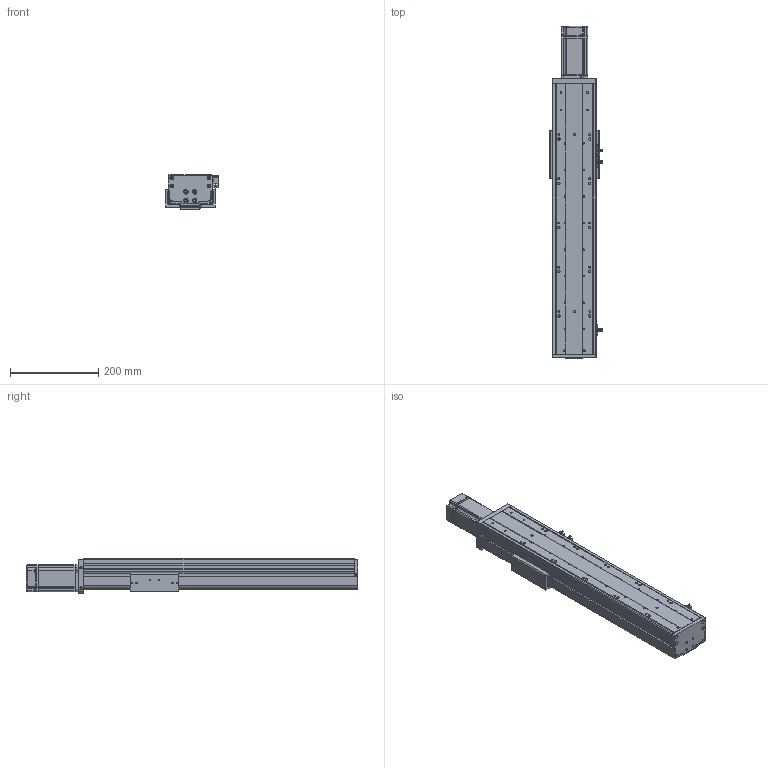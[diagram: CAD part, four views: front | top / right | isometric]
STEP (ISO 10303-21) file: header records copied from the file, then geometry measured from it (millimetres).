
FILE_DESCRIPTION (( 'STEP AP203' ), '1' );
FILE_NAME ('RY100FBS-L1610-300-MK(15双轨）.SLDASM_350.step', '2021-02-22T08:44:09', ( '盈信电脑' ), ( '东莞市道滘镇水果街19号' ), 'SwSTEP 2.0', 'SolidWorks 2012', '' );
FILE_SCHEMA (( 'CONFIG_CONTROL_DESIGN' ));
Length unit declared in the file: millimetre
Products named in the file (12): RY100FBS-L1610-300-MK(15双轨）.SLDASM_350; 覜茼ん672; 侂狟400W侜督萇儂; RY100FB-遵嫖萇覜茼え; 15; RY100FBS-后盖板(15双轨）; RY100FBS-300-上盖板(15双轨）_350; RY100FBS-前盖板(15双轨）; 滅袉蝶18-24; RY100FBS-铝滑块（16丝杆）; RY100FBS-300型材底座(15双轨）_350; 滅袉蝶18-15
Assembly tree (14 placements, depth 3):
  RY100FBS-L1610-300-MK(15双轨）.SLDASM_350
    RY100FBS-300型材底座(15双轨）_350
    滅袉蝶18-24  x2
    滅袉蝶18-15
    RY100FBS-铝滑块（16丝杆）
    RY100FBS-300-上盖板(15双轨）_350
    RY100FBS-前盖板(15双轨）
    RY100FBS-后盖板(15双轨）
    侂狟400W侜督萇儂
      15
    RY100FB-遵嫖萇覜茼え
    覜茼ん672  x3
Bounding box: 119.7 x 750.5 x 78.75 mm (x, y, z)
Volume: 1918191.3 mm3; surface area: 634917 mm2
Topology: 13 solids, 13 shells, 1443 faces, 4087 edges, 2668 vertices
Faces by surface type: cylinder 664, plane 647, cone 114, bspline 18
Entity records: 44620 total; most frequent: CARTESIAN_POINT 9363, DIRECTION 7190, ORIENTED_EDGE 7078, EDGE_CURVE 3539, AXIS2_PLACEMENT_3D 2581, VERTEX_POINT 2336, VECTOR 2028, LINE 2028
